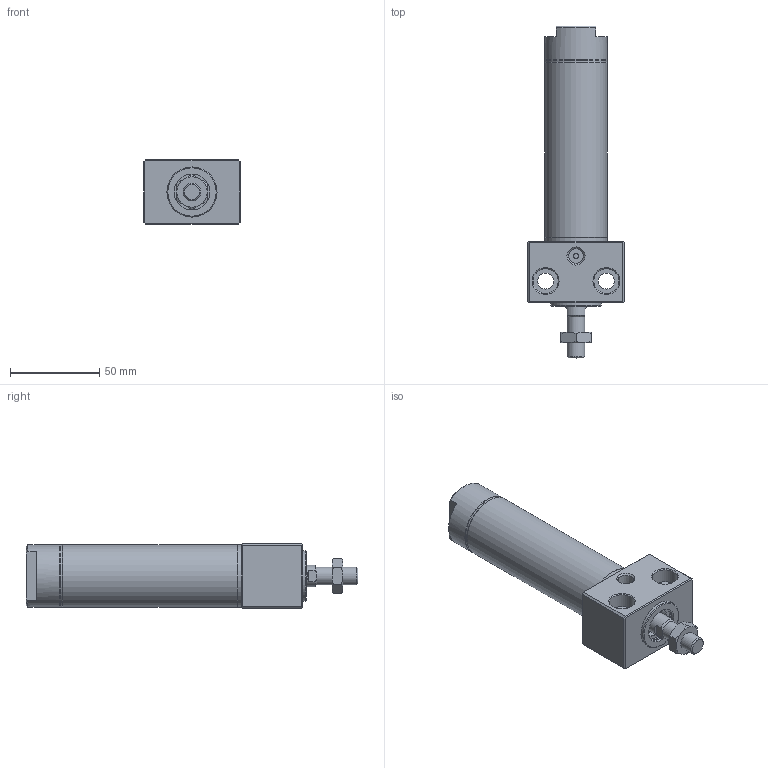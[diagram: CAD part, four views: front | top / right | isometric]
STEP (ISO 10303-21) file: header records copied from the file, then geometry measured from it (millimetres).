
FILE_DESCRIPTION((''),'2;1');
FILE_NAME('I:\3D電子目錄\氣缸\DBS\DBS\DBS30x50.stp','2007-10-08T08:43:01',('Administrator'),(''),'Autodesk Inventor 2008','Autodesk Inventor 2008','');
FILE_SCHEMA(('AUTOMOTIVE_DESIGN { 1 0 10303 214 1 1 1 1 }'));
Length unit declared in the file: millimetre
Products named in the file (1): DBS30x50
Bounding box: 54 x 185.6 x 36 mm (x, y, z)
Volume: 120448.5 mm3; surface area: 48748.3 mm2
Topology: 6 solids, 6 shells, 166 faces, 329 edges, 198 vertices
Faces by surface type: plane 75, cone 41, cylinder 35, bspline 12, torus 3
Full cylindrical faces by diameter (mm): 3 x1, 6.5 x1, 8 x1, 9 x1, 10 x2, 12 x1, 12.5 x1, 14 x1, 16 x1, 17 x2, 20 x2, 21 x3, 24 x2, 28 x3, 28.5 x2, 30 x1, 32.2 x6, 35 x4
Entity records: 4070 total; most frequent: CARTESIAN_POINT 931, DIRECTION 660, ORIENTED_EDGE 504, AXIS2_PLACEMENT_3D 289, EDGE_LOOP 278, EDGE_CURVE 252, VERTEX_POINT 192, FACE_OUTER_BOUND 166
